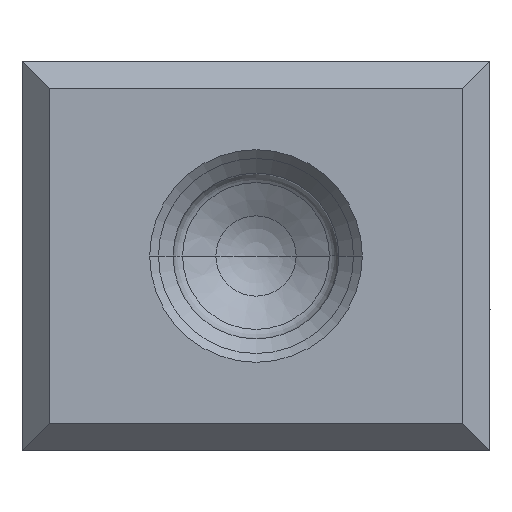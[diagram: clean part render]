
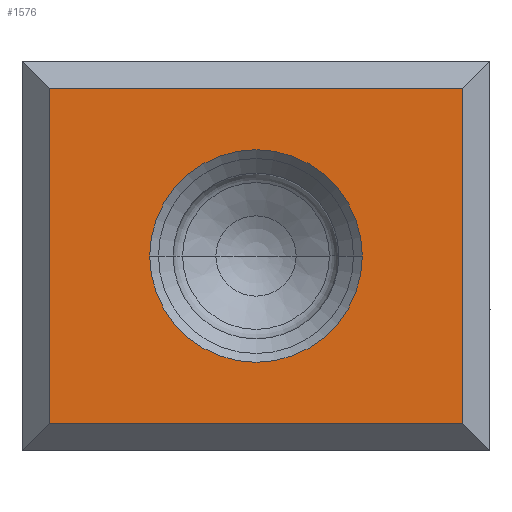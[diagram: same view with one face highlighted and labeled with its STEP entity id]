
A CAD part, left-side view. The second image highlights one B-rep face of the part: STEP entity #1576.
In plain terms, the highlighted planar face has unit normal (-1, 0, 0).
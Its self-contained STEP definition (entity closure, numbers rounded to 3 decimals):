
#248=DIRECTION('',(0.,1.,0.));
#249=VECTOR('',#248,10.6);
#250=CARTESIAN_POINT('',(-22.,0.7,4.3));
#251=LINE('',#250,#249);
#256=DIRECTION('',(0.,0.,-1.));
#257=VECTOR('',#256,8.6);
#258=CARTESIAN_POINT('',(-22.,0.7,4.3));
#259=LINE('',#258,#257);
#260=DIRECTION('',(0.,1.,0.));
#261=VECTOR('',#260,10.6);
#262=CARTESIAN_POINT('',(-22.,0.7,-4.3));
#263=LINE('',#262,#261);
#264=CARTESIAN_POINT('',(-22.,6.,0.));
#265=DIRECTION('',(-1.,0.,0.));
#266=DIRECTION('',(0.,1.,0.));
#267=AXIS2_PLACEMENT_3D('',#264,#265,#266);
#269=CARTESIAN_POINT('',(-22.,6.,0.));
#270=DIRECTION('',(-1.,0.,0.));
#271=DIRECTION('',(0.,-1.,0.));
#272=AXIS2_PLACEMENT_3D('',#269,#270,#271);
#593=DIRECTION('',(0.,0.,-1.));
#594=VECTOR('',#593,8.6);
#595=CARTESIAN_POINT('',(-22.,11.3,4.3));
#596=LINE('',#595,#594);
#1306=CARTESIAN_POINT('',(-22.,0.7,4.3));
#1307=CARTESIAN_POINT('',(-22.,11.3,4.3));
#1308=VERTEX_POINT('',#1306);
#1309=VERTEX_POINT('',#1307);
#1310=CARTESIAN_POINT('',(-22.,0.7,-4.3));
#1311=VERTEX_POINT('',#1310);
#1312=CARTESIAN_POINT('',(-22.,11.3,-4.3));
#1313=VERTEX_POINT('',#1312);
#1314=CARTESIAN_POINT('',(-22.,8.725,0.));
#1315=CARTESIAN_POINT('',(-22.,3.275,0.));
#1316=VERTEX_POINT('',#1314);
#1317=VERTEX_POINT('',#1315);
#1556=CARTESIAN_POINT('',(-22.,12.25,-6.25));
#1557=DIRECTION('',(-1.,0.,0.));
#1558=DIRECTION('',(0.,-1.,0.));
#1559=AXIS2_PLACEMENT_3D('',#1556,#1557,#1558);
#1560=PLANE('',#1559);
#1562=ORIENTED_EDGE('',*,*,#1561,.T.);
#1564=ORIENTED_EDGE('',*,*,#1563,.T.);
#1566=ORIENTED_EDGE('',*,*,#1565,.F.);
#1567=ORIENTED_EDGE('',*,*,#1546,.F.);
#1568=EDGE_LOOP('',(#1562,#1564,#1566,#1567));
#1569=FACE_OUTER_BOUND('',#1568,.F.);
#1571=ORIENTED_EDGE('',*,*,#1570,.T.);
#1573=ORIENTED_EDGE('',*,*,#1572,.T.);
#1574=EDGE_LOOP('',(#1571,#1573));
#1575=FACE_BOUND('',#1574,.F.);
#1576=ADVANCED_FACE('',(#1569,#1575),#1560,.T.);
#268=CIRCLE('',#267,2.725);
#273=CIRCLE('',#272,2.725);
#1546=EDGE_CURVE('',#1308,#1309,#251,.T.);
#1561=EDGE_CURVE('',#1308,#1311,#259,.T.);
#1563=EDGE_CURVE('',#1311,#1313,#263,.T.);
#1565=EDGE_CURVE('',#1309,#1313,#596,.T.);
#1570=EDGE_CURVE('',#1316,#1317,#268,.T.);
#1572=EDGE_CURVE('',#1317,#1316,#273,.T.);
